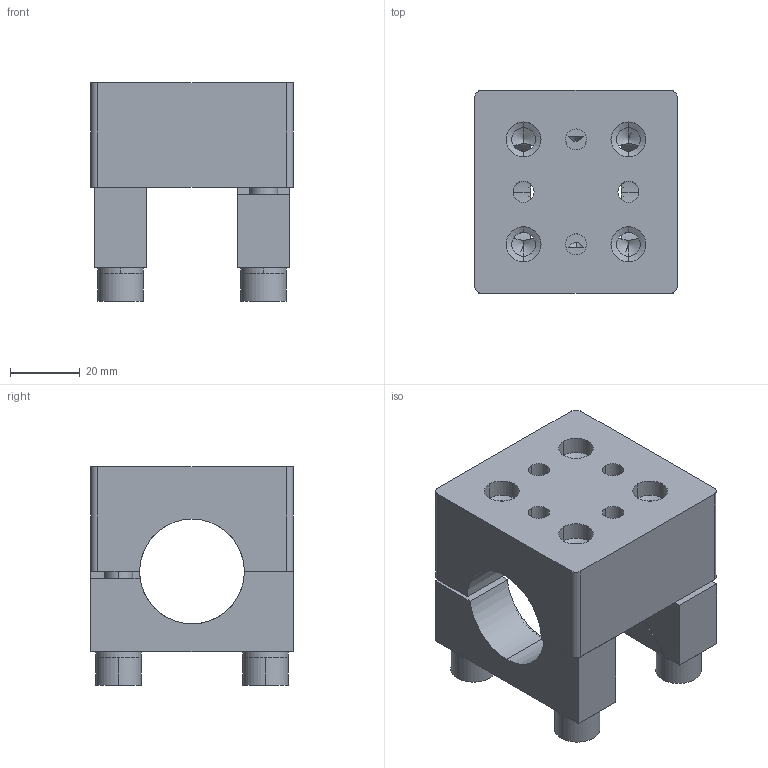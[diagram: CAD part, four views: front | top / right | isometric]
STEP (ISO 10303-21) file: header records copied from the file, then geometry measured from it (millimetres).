
FILE_DESCRIPTION(('CATIA V5 STEP Exchange'),'2;1');
FILE_NAME('\\Tcn-server2\产品部\2-PDD Database\6-Gripping\500-Other product\2-Euro gripper system\Euro Gripper to customer\Euro gripper-3D model for design-V2\EGT218.stp','2013-05-31T07:06:40+00:00',('none'),('none'),'CATIA Version 5 Release 19 SP 2 (IN-10)','CATIA V5 STEP AP203','none');
FILE_SCHEMA(('CONFIG_CONTROL_DESIGN'));
Length unit declared in the file: millimetre
Products named in the file (1): EGT218
Bounding box: 58 x 58 x 62.6 mm (x, y, z)
Volume: 104815.8 mm3; surface area: 38512.3 mm2
Topology: 11 solids, 11 shells, 386 faces, 1006 edges, 644 vertices
Faces by surface type: plane 196, cylinder 144, cone 46
Entity records: 11535 total; most frequent: CARTESIAN_POINT 2796, ORIENTED_EDGE 1996, DIRECTION 1434, EDGE_CURVE 998, VERTEX_POINT 644, AXIS2_PLACEMENT_3D 636, VECTOR 456, LINE 456
